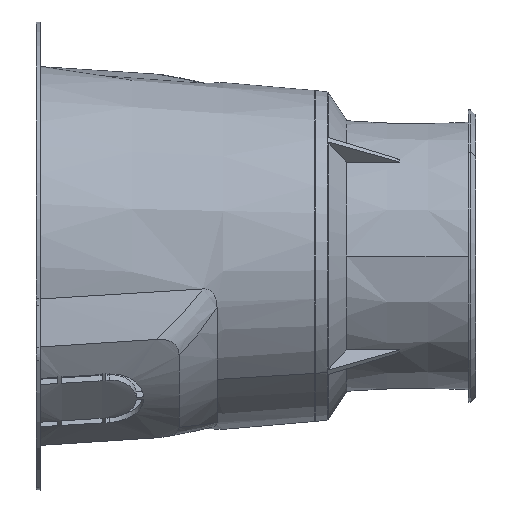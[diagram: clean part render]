
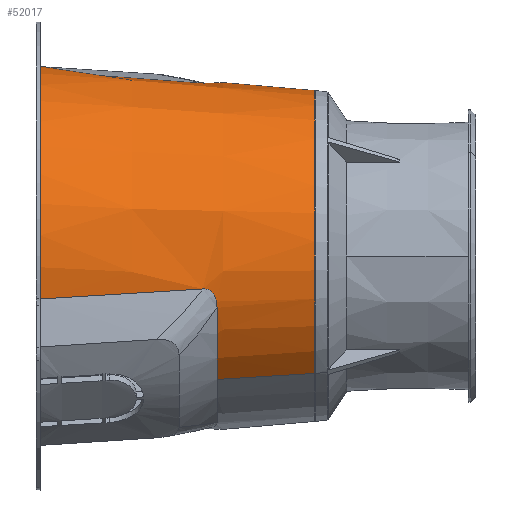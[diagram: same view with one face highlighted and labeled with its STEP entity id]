
A CAD part, left-side view. The second image highlights one B-rep face of the part: STEP entity #52017.
In plain terms, the highlighted conical face has half-angle 4.938 degrees and reference radius 70.313 mm.
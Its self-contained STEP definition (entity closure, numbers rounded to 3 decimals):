
#44627=CARTESIAN_POINT('',(-26.9,0.,-9.6));
#44628=DIRECTION('',(-1.,0.,0.));
#44629=DIRECTION('',(0.,1.,0.));
#44630=AXIS2_PLACEMENT_3D('',#44627,#44628,#44629);
#44715=DIRECTION('',(-0.995,0.096,-0.01));
#44716=VECTOR('',#44715,64.592);
#44717=CARTESIAN_POINT('',(-71.111,57.451,
-48.613));
#44718=LINE('',#44717,#44716);
#44719=DIRECTION('',(0.995,0.096,0.01));
#44720=VECTOR('',#44719,64.592);
#44721=CARTESIAN_POINT('',(-135.4,-63.659,
-49.255));
#44722=LINE('',#44721,#44720);
#44723=DIRECTION('',(0.996,0.086,0.));
#44724=VECTOR('',#44723,38.699);
#44725=CARTESIAN_POINT('',(-65.456,-68.957,
-9.6));
#44726=LINE('',#44725,#44724);
#44727=CARTESIAN_POINT('',(-65.456,0.,-9.6));
#44728=DIRECTION('',(-1.,0.,0.));
#44729=DIRECTION('',(0.,1.,0.));
#44730=AXIS2_PLACEMENT_3D('',#44727,#44728,#44729);
#44732=CARTESIAN_POINT('',(-65.456,61.041,
-41.679));
#44733=CARTESIAN_POINT('',(-65.456,60.812,
-42.115));
#44734=CARTESIAN_POINT('',(-65.494,60.373,
-42.935));
#44735=CARTESIAN_POINT('',(-65.651,59.781,
-44.01));
#44736=CARTESIAN_POINT('',(-65.893,59.258,
-44.943));
#44737=CARTESIAN_POINT('',(-66.206,58.806,
-45.74));
#44738=CARTESIAN_POINT('',(-66.574,58.428,
-46.407));
#44739=CARTESIAN_POINT('',(-66.981,58.122,
-46.952));
#44740=CARTESIAN_POINT('',(-67.417,57.881,
-47.394));
#44741=CARTESIAN_POINT('',(-67.885,57.692,
-47.754));
#44742=CARTESIAN_POINT('',(-68.391,57.549,
-48.048));
#44743=CARTESIAN_POINT('',(-68.949,57.45,
-48.282));
#44744=CARTESIAN_POINT('',(-69.576,57.395,
-48.461));
#44745=CARTESIAN_POINT('',(-70.283,57.389,
-48.578));
#44746=CARTESIAN_POINT('',(-70.824,57.423,
-48.61));
#44747=CARTESIAN_POINT('',(-71.111,57.451,
-48.613));
#44797=DIRECTION('',(0.996,-0.086,0.));
#44798=VECTOR('',#44797,38.699);
#44799=CARTESIAN_POINT('',(-65.456,68.957,-9.6));
#44800=LINE('',#44799,#44798);
#45093=CARTESIAN_POINT('',(-135.4,0.,-9.6));
#45094=DIRECTION('',(1.,0.,0.));
#45095=DIRECTION('',(0.,-0.849,-0.529));
#45096=AXIS2_PLACEMENT_3D('',#45093,#45094,#45095);
#45328=CARTESIAN_POINT('',(-65.456,-61.041,
-41.679));
#45329=CARTESIAN_POINT('',(-65.456,-60.812,
-42.115));
#45330=CARTESIAN_POINT('',(-65.494,-60.373,
-42.935));
#45331=CARTESIAN_POINT('',(-65.651,-59.781,
-44.01));
#45332=CARTESIAN_POINT('',(-65.893,-59.258,
-44.943));
#45333=CARTESIAN_POINT('',(-66.206,-58.806,
-45.74));
#45334=CARTESIAN_POINT('',(-66.574,-58.428,
-46.407));
#45335=CARTESIAN_POINT('',(-66.981,-58.122,
-46.952));
#45336=CARTESIAN_POINT('',(-67.417,-57.881,
-47.394));
#45337=CARTESIAN_POINT('',(-67.885,-57.692,
-47.754));
#45338=CARTESIAN_POINT('',(-68.391,-57.549,
-48.048));
#45339=CARTESIAN_POINT('',(-68.949,-57.45,
-48.282));
#45340=CARTESIAN_POINT('',(-69.576,-57.395,
-48.461));
#45341=CARTESIAN_POINT('',(-70.283,-57.389,
-48.578));
#45342=CARTESIAN_POINT('',(-70.824,-57.423,
-48.61));
#45343=CARTESIAN_POINT('',(-71.11,-57.451,
-48.613));
#45380=CARTESIAN_POINT('',(-65.456,0.,-9.6));
#45381=DIRECTION('',(1.,0.,0.));
#45382=DIRECTION('',(0.,-1.,0.));
#45383=AXIS2_PLACEMENT_3D('',#45380,#45381,#45382);
#50635=CARTESIAN_POINT('',(-26.9,65.626,-9.6));
#50636=CARTESIAN_POINT('',(-26.9,-65.626,-9.6));
#50637=VERTEX_POINT('',#50635);
#50638=VERTEX_POINT('',#50636);
#50675=CARTESIAN_POINT('',(-71.111,57.451,
-48.613));
#50676=CARTESIAN_POINT('',(-135.4,63.659,
-49.255));
#50677=VERTEX_POINT('',#50675);
#50678=VERTEX_POINT('',#50676);
#50679=CARTESIAN_POINT('',(-135.4,-63.659,-49.254));
#50680=VERTEX_POINT('',#50679);
#50681=CARTESIAN_POINT('',(-71.11,-57.451,
-48.613));
#50682=VERTEX_POINT('',#50681);
#50683=VERTEX_POINT('',#45328);
#50684=CARTESIAN_POINT('',(-65.456,-68.957,
-9.6));
#50685=VERTEX_POINT('',#50684);
#50686=CARTESIAN_POINT('',(-65.456,68.957,-9.6));
#50687=VERTEX_POINT('',#50686);
#50688=CARTESIAN_POINT('',(-65.456,61.041,
-41.679));
#50689=VERTEX_POINT('',#50688);
#51991=CARTESIAN_POINT('',(-81.15,0.,-9.6));
#51992=DIRECTION('',(-1.,0.,0.));
#51993=DIRECTION('',(0.,1.,0.));
#51994=AXIS2_PLACEMENT_3D('',#51991,#51992,#51993);
#51995=CONICAL_SURFACE('',#51994,70.313,4.938);
#51997=ORIENTED_EDGE('',*,*,#51996,.T.);
#51999=ORIENTED_EDGE('',*,*,#51998,.F.);
#52001=ORIENTED_EDGE('',*,*,#52000,.T.);
#52003=ORIENTED_EDGE('',*,*,#52002,.F.);
#52005=ORIENTED_EDGE('',*,*,#52004,.F.);
#52007=ORIENTED_EDGE('',*,*,#52006,.T.);
#52008=ORIENTED_EDGE('',*,*,#51930,.F.);
#52010=ORIENTED_EDGE('',*,*,#52009,.F.);
#52012=ORIENTED_EDGE('',*,*,#52011,.T.);
#52014=ORIENTED_EDGE('',*,*,#52013,.T.);
#52015=EDGE_LOOP('',(#51997,#51999,#52001,#52003,#52005,#52007,#52008,#52010,
#52012,#52014));
#52016=FACE_OUTER_BOUND('',#52015,.F.);
#52017=ADVANCED_FACE('',(#52016),#51995,.T.);
#44631=CIRCLE('',#44630,65.626);
#44731=CIRCLE('',#44730,68.957);
#44748=B_SPLINE_CURVE_WITH_KNOTS('',3,(#44732,#44733,#44734,#44735,#44736,
#44737,#44738,#44739,#44740,#44741,#44742,#44743,#44744,#44745,#44746,#44747),
.UNSPECIFIED.,.F.,.F.,(4,1,1,1,1,1,1,1,1,1,1,1,1,4),(0.,0.077,
0.154,0.231,0.308,0.385,
0.462,0.538,0.615,0.692,
0.769,0.846,0.923,1.),.UNSPECIFIED.);
#45097=CIRCLE('',#45096,75.);
#45344=B_SPLINE_CURVE_WITH_KNOTS('',3,(#45328,#45329,#45330,#45331,#45332,
#45333,#45334,#45335,#45336,#45337,#45338,#45339,#45340,#45341,#45342,#45343),
.UNSPECIFIED.,.F.,.F.,(4,1,1,1,1,1,1,1,1,1,1,1,1,4),(0.,0.077,
0.154,0.231,0.308,0.385,
0.462,0.538,0.615,0.692,
0.769,0.846,0.923,1.),.UNSPECIFIED.);
#45384=CIRCLE('',#45383,68.957);
#51930=EDGE_CURVE('',#50637,#50638,#44631,.T.);
#51996=EDGE_CURVE('',#50677,#50678,#44718,.T.);
#51998=EDGE_CURVE('',#50680,#50678,#45097,.T.);
#52000=EDGE_CURVE('',#50680,#50682,#44722,.T.);
#52002=EDGE_CURVE('',#50683,#50682,#45344,.T.);
#52004=EDGE_CURVE('',#50685,#50683,#45384,.T.);
#52006=EDGE_CURVE('',#50685,#50638,#44726,.T.);
#52009=EDGE_CURVE('',#50687,#50637,#44800,.T.);
#52011=EDGE_CURVE('',#50687,#50689,#44731,.T.);
#52013=EDGE_CURVE('',#50689,#50677,#44748,.T.);
